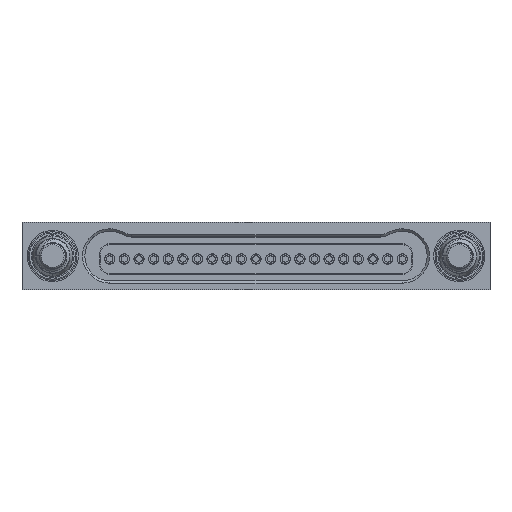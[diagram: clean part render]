
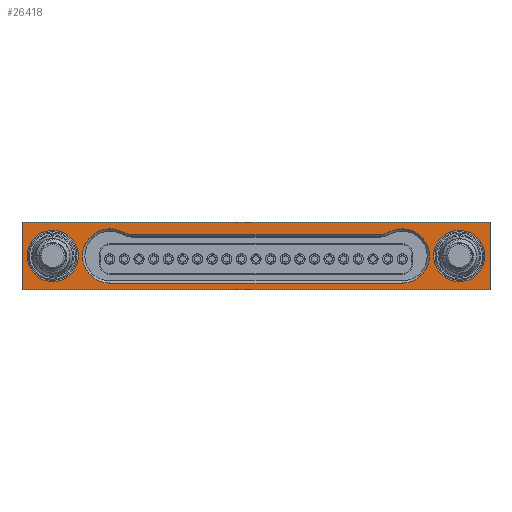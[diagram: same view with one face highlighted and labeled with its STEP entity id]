
A CAD part, top view. The second image highlights one B-rep face of the part: STEP entity #26418.
In plain terms, the highlighted planar face has unit normal (0, 0, 1).
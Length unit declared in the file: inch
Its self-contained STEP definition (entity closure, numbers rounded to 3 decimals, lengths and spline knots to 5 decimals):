
#827 = EDGE_CURVE ( 'NONE', #13339, #13601, #1109, .T. ) ;
#985 = CARTESIAN_POINT ( 'NONE',  ( 0.3475, 0.04875, 0.225 ) ) ;
#1109 = LINE ( 'NONE', #8026, #21398 ) ;
#1124 = AXIS2_PLACEMENT_3D ( 'NONE', #10628, #1503, #26635 ) ;
#1199 = EDGE_CURVE ( 'NONE', #17316, #12501, #17660, .T. ) ;
#1216 = CARTESIAN_POINT ( 'NONE',  ( -0.3475, 0.005, 0.225 ) ) ;
#1290 = LINE ( 'NONE', #14415, #20531 ) ;
#1381 = VECTOR ( 'NONE', #13507, 39.37008 ) ;
#1503 = DIRECTION ( 'NONE',  ( 0., 0., 1. ) ) ;
#1734 = ORIENTED_EDGE ( 'NONE', *, *, #26813, .T. ) ;
#1891 = FACE_OUTER_BOUND ( 'NONE', #5089, .T. ) ;
#1932 = VERTEX_POINT ( 'NONE', #28729 ) ;
#2361 = DIRECTION ( 'NONE',  ( 0., 0., 1. ) ) ;
#2516 = DIRECTION ( 'NONE',  ( 1., 0., 0. ) ) ;
#2596 = EDGE_CURVE ( 'NONE', #20644, #13339, #1290, .T. ) ;
#2744 = CARTESIAN_POINT ( 'NONE',  ( 0.4, -0.0525, 0.225 ) ) ;
#2883 = VERTEX_POINT ( 'NONE', #13789 ) ;
#2905 = ORIENTED_EDGE ( 'NONE', *, *, #4631, .T. ) ;
#2958 = ORIENTED_EDGE ( 'NONE', *, *, #24203, .T. ) ;
#3030 = ORIENTED_EDGE ( 'NONE', *, *, #5773, .F. ) ;
#3340 = ORIENTED_EDGE ( 'NONE', *, *, #25352, .T. ) ;
#3454 = DIRECTION ( 'NONE',  ( 0., -1., 0. ) ) ;
#3480 = DIRECTION ( 'NONE',  ( 0., 0., -1. ) ) ;
#3629 = CIRCLE ( 'NONE', #20077, 0.0465 ) ;
#3943 = PLANE ( 'NONE',  #18333 ) ;
#4184 = VERTEX_POINT ( 'NONE', #985 ) ;
#4186 = DIRECTION ( 'NONE',  ( 0., 0., 1. ) ) ;
#4332 = ORIENTED_EDGE ( 'NONE', *, *, #827, .T. ) ;
#4536 = CARTESIAN_POINT ( 'NONE',  ( 0.4, 0.0625, 0.225 ) ) ;
#4631 = EDGE_CURVE ( 'NONE', #28036, #25028, #3629, .T. ) ;
#4669 = EDGE_LOOP ( 'NONE', ( #2958, #3340, #17487, #5824, #17282, #25163, #2905, #1734 ) ) ;
#4776 = EDGE_CURVE ( 'NONE', #25748, #13904, #27080, .T. ) ;
#5049 = AXIS2_PLACEMENT_3D ( 'NONE', #10419, #3480, #23502 ) ;
#5089 = EDGE_LOOP ( 'NONE', ( #7895, #18349, #4332, #12253 ) ) ;
#5654 = EDGE_CURVE ( 'NONE', #17770, #20644, #14153, .T. ) ;
#5669 = DIRECTION ( 'NONE',  ( 0., 0., -1. ) ) ;
#5773 = EDGE_CURVE ( 'NONE', #12501, #17316, #27169, .T. ) ;
#5824 = ORIENTED_EDGE ( 'NONE', *, *, #4776, .T. ) ;
#6074 = AXIS2_PLACEMENT_3D ( 'NONE', #14803, #5669, #3454 ) ;
#6164 = FACE_BOUND ( 'NONE', #27621, .T. ) ;
#6359 = DIRECTION ( 'NONE',  ( 0., 0., -1. ) ) ;
#6699 = VERTEX_POINT ( 'NONE', #25822 ) ;
#6756 = VERTEX_POINT ( 'NONE', #28171 ) ;
#6775 = DIRECTION ( 'NONE',  ( 0., -1., 0. ) ) ;
#7165 = CIRCLE ( 'NONE', #17533, 0.0305 ) ;
#7517 = CIRCLE ( 'NONE', #20203, 0.0465 ) ;
#7895 = ORIENTED_EDGE ( 'NONE', *, *, #5654, .T. ) ;
#8026 = CARTESIAN_POINT ( 'NONE',  ( -0.4, 0.0625, 0.225 ) ) ;
#8163 = DIRECTION ( 'NONE',  ( 0., -1., 0. ) ) ;
#8938 = LINE ( 'NONE', #17926, #1381 ) ;
#9454 = CARTESIAN_POINT ( 'NONE',  ( -0.4, -0.0525, 0.225 ) ) ;
#9593 = CARTESIAN_POINT ( 'NONE',  ( -0.21205, 0.0415, 0.225 ) ) ;
#9661 = AXIS2_PLACEMENT_3D ( 'NONE', #1216, #19163, #14201 ) ;
#9959 = CARTESIAN_POINT ( 'NONE',  ( 0.4, 0.0625, 0.225 ) ) ;
#10419 = CARTESIAN_POINT ( 'NONE',  ( -0.25, 0.005, 0.225 ) ) ;
#10628 = CARTESIAN_POINT ( 'NONE',  ( 0.3475, 0.005, 0.225 ) ) ;
#11016 = DIRECTION ( 'NONE',  ( 0., 0., 1. ) ) ;
#11569 = ORIENTED_EDGE ( 'NONE', *, *, #1199, .F. ) ;
#11954 = CARTESIAN_POINT ( 'NONE',  ( 0.4, 0.0415, 0.225 ) ) ;
#12137 = CIRCLE ( 'NONE', #13531, 0.04375 ) ;
#12253 = ORIENTED_EDGE ( 'NONE', *, *, #13207, .T. ) ;
#12331 = ORIENTED_EDGE ( 'NONE', *, *, #18098, .F. ) ;
#12501 = VERTEX_POINT ( 'NONE', #20334 ) ;
#12823 = CARTESIAN_POINT ( 'NONE',  ( 0.25, 0.0515, 0.225 ) ) ;
#12947 = CARTESIAN_POINT ( 'NONE',  ( 0.4, 0.0625, 0.225 ) ) ;
#13117 = VECTOR ( 'NONE', #18677, 39.37008 ) ;
#13207 = EDGE_CURVE ( 'NONE', #13601, #17770, #8938, .T. ) ;
#13339 = VERTEX_POINT ( 'NONE', #22527 ) ;
#13507 = DIRECTION ( 'NONE',  ( 1., 0., 0. ) ) ;
#13531 = AXIS2_PLACEMENT_3D ( 'NONE', #26312, #11016, #15163 ) ;
#13601 = VERTEX_POINT ( 'NONE', #9454 ) ;
#13789 = CARTESIAN_POINT ( 'NONE',  ( 0.3475, -0.03875, 0.225 ) ) ;
#13904 = VERTEX_POINT ( 'NONE', #18246 ) ;
#14153 = LINE ( 'NONE', #4536, #13117 ) ;
#14201 = DIRECTION ( 'NONE',  ( 0., 1., 0. ) ) ;
#14415 = CARTESIAN_POINT ( 'NONE',  ( 0.4, 0.0625, 0.225 ) ) ;
#14733 = DIRECTION ( 'NONE',  ( 0., 1., 0. ) ) ;
#14803 = CARTESIAN_POINT ( 'NONE',  ( -0.25, 0.005, 0.225 ) ) ;
#15048 = EDGE_CURVE ( 'NONE', #13904, #6699, #25345, .T. ) ;
#15163 = DIRECTION ( 'NONE',  ( 0., 1., 0. ) ) ;
#15222 = ORIENTED_EDGE ( 'NONE', *, *, #23937, .F. ) ;
#15224 = DIRECTION ( 'NONE',  ( 0., -1., 0. ) ) ;
#15465 = AXIS2_PLACEMENT_3D ( 'NONE', #21027, #23668, #14733 ) ;
#15693 = CARTESIAN_POINT ( 'NONE',  ( -0.22708, 0.04546, 0.225 ) ) ;
#16941 = DIRECTION ( 'NONE',  ( 0., 0., -1. ) ) ;
#17083 = FACE_BOUND ( 'NONE', #19009, .T. ) ;
#17282 = ORIENTED_EDGE ( 'NONE', *, *, #15048, .T. ) ;
#17316 = VERTEX_POINT ( 'NONE', #18536 ) ;
#17487 = ORIENTED_EDGE ( 'NONE', *, *, #29015, .T. ) ;
#17533 = AXIS2_PLACEMENT_3D ( 'NONE', #20070, #4186, #24619 ) ;
#17660 = CIRCLE ( 'NONE', #9661, 0.04375 ) ;
#17770 = VERTEX_POINT ( 'NONE', #2744 ) ;
#17926 = CARTESIAN_POINT ( 'NONE',  ( 0.4, -0.0525, 0.225 ) ) ;
#17978 = CARTESIAN_POINT ( 'NONE',  ( 0.21205, 0.072, 0.225 ) ) ;
#18039 = LINE ( 'NONE', #26717, #25880 ) ;
#18098 = EDGE_CURVE ( 'NONE', #2883, #4184, #23204, .T. ) ;
#18246 = CARTESIAN_POINT ( 'NONE',  ( 0.21205, 0.0415, 0.225 ) ) ;
#18333 = AXIS2_PLACEMENT_3D ( 'NONE', #12947, #19702, #28680 ) ;
#18349 = ORIENTED_EDGE ( 'NONE', *, *, #2596, .T. ) ;
#18535 = CARTESIAN_POINT ( 'NONE',  ( 0.25, 0.005, 0.225 ) ) ;
#18536 = CARTESIAN_POINT ( 'NONE',  ( -0.3475, 0.04875, 0.225 ) ) ;
#18677 = DIRECTION ( 'NONE',  ( 0., 1., 0. ) ) ;
#19009 = EDGE_LOOP ( 'NONE', ( #15222, #12331 ) ) ;
#19163 = DIRECTION ( 'NONE',  ( 0., 0., 1. ) ) ;
#19623 = VECTOR ( 'NONE', #2516, 39.37008 ) ;
#19702 = DIRECTION ( 'NONE',  ( 0., 0., -1. ) ) ;
#20070 = CARTESIAN_POINT ( 'NONE',  ( -0.21205, 0.072, 0.225 ) ) ;
#20077 = AXIS2_PLACEMENT_3D ( 'NONE', #26658, #6359, #15224 ) ;
#20203 = AXIS2_PLACEMENT_3D ( 'NONE', #18535, #16941, #25894 ) ;
#20334 = CARTESIAN_POINT ( 'NONE',  ( -0.3475, -0.03875, 0.225 ) ) ;
#20379 = DIRECTION ( 'NONE',  ( -1., 0., 0. ) ) ;
#20531 = VECTOR ( 'NONE', #27619, 39.37008 ) ;
#20644 = VERTEX_POINT ( 'NONE', #9959 ) ;
#21027 = CARTESIAN_POINT ( 'NONE',  ( -0.3475, 0.005, 0.225 ) ) ;
#21398 = VECTOR ( 'NONE', #8163, 39.37008 ) ;
#21597 = CIRCLE ( 'NONE', #6074, 0.0465 ) ;
#22527 = CARTESIAN_POINT ( 'NONE',  ( -0.4, 0.0625, 0.225 ) ) ;
#22654 = CARTESIAN_POINT ( 'NONE',  ( 0.25, -0.0415, 0.225 ) ) ;
#23204 = CIRCLE ( 'NONE', #1124, 0.04375 ) ;
#23502 = DIRECTION ( 'NONE',  ( 0., -1., 0. ) ) ;
#23668 = DIRECTION ( 'NONE',  ( 0., 0., 1. ) ) ;
#23937 = EDGE_CURVE ( 'NONE', #4184, #2883, #12137, .T. ) ;
#24203 = EDGE_CURVE ( 'NONE', #1932, #6756, #25745, .T. ) ;
#24619 = DIRECTION ( 'NONE',  ( 0., -1., 0. ) ) ;
#25028 = VERTEX_POINT ( 'NONE', #22654 ) ;
#25163 = ORIENTED_EDGE ( 'NONE', *, *, #26376, .T. ) ;
#25345 = CIRCLE ( 'NONE', #26293, 0.0305 ) ;
#25352 = EDGE_CURVE ( 'NONE', #6756, #26948, #21597, .T. ) ;
#25745 = CIRCLE ( 'NONE', #5049, 0.0465 ) ;
#25748 = VERTEX_POINT ( 'NONE', #9593 ) ;
#25822 = CARTESIAN_POINT ( 'NONE',  ( 0.22708, 0.04546, 0.225 ) ) ;
#25880 = VECTOR ( 'NONE', #20379, 39.37008 ) ;
#25894 = DIRECTION ( 'NONE',  ( 0., -1., 0. ) ) ;
#26293 = AXIS2_PLACEMENT_3D ( 'NONE', #17978, #2361, #6775 ) ;
#26312 = CARTESIAN_POINT ( 'NONE',  ( 0.3475, 0.005, 0.225 ) ) ;
#26376 = EDGE_CURVE ( 'NONE', #6699, #28036, #7517, .T. ) ;
#26418 = ADVANCED_FACE ( 'NONE', ( #17083, #6164, #26598, #1891 ), #3943, .F. ) ;
#26598 = FACE_BOUND ( 'NONE', #4669, .T. ) ;
#26635 = DIRECTION ( 'NONE',  ( 0., 1., 0. ) ) ;
#26658 = CARTESIAN_POINT ( 'NONE',  ( 0.25, 0.005, 0.225 ) ) ;
#26717 = CARTESIAN_POINT ( 'NONE',  ( 0.4, -0.0415, 0.225 ) ) ;
#26813 = EDGE_CURVE ( 'NONE', #25028, #1932, #18039, .T. ) ;
#26948 = VERTEX_POINT ( 'NONE', #15693 ) ;
#27080 = LINE ( 'NONE', #11954, #19623 ) ;
#27169 = CIRCLE ( 'NONE', #15465, 0.04375 ) ;
#27619 = DIRECTION ( 'NONE',  ( -1., 0., 0. ) ) ;
#27621 = EDGE_LOOP ( 'NONE', ( #11569, #3030 ) ) ;
#28036 = VERTEX_POINT ( 'NONE', #12823 ) ;
#28171 = CARTESIAN_POINT ( 'NONE',  ( -0.25, 0.0515, 0.225 ) ) ;
#28680 = DIRECTION ( 'NONE',  ( 0., -1., 0. ) ) ;
#28729 = CARTESIAN_POINT ( 'NONE',  ( -0.25, -0.0415, 0.225 ) ) ;
#29015 = EDGE_CURVE ( 'NONE', #26948, #25748, #7165, .T. ) ;
